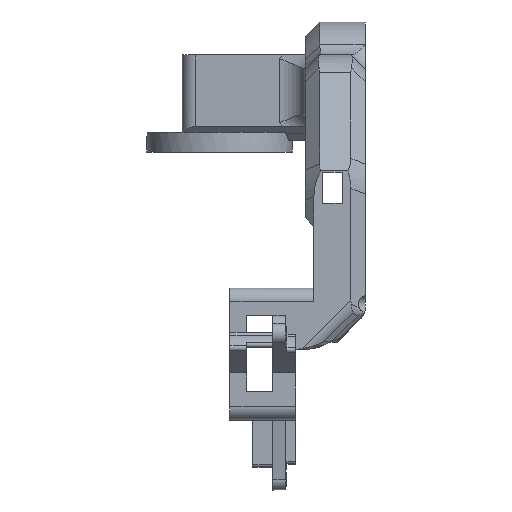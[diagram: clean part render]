
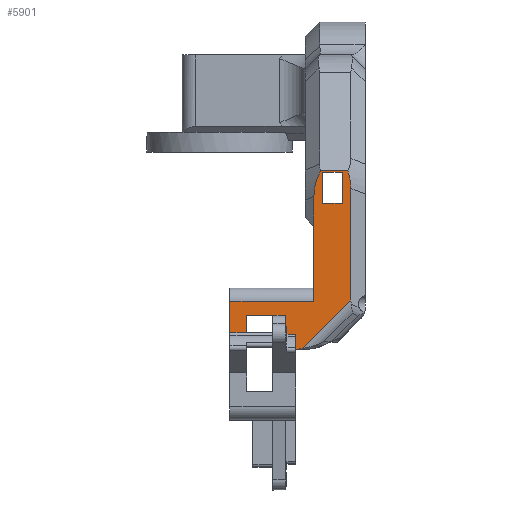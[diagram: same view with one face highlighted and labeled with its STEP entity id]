
A CAD part, left-side view. The second image highlights one B-rep face of the part: STEP entity #5901.
In plain terms, the highlighted planar face has unit normal (-1, 0, 0).
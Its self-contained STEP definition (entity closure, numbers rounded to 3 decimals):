
#40=ELLIPSE('',#6282,8.66,5.);
#44=ELLIPSE('',#6289,30.946,21.);
#45=ELLIPSE('',#6290,30.946,21.);
#179=FACE_BOUND('',#829,.T.);
#216=PLANE('',#6288);
#513=FACE_OUTER_BOUND('',#828,.T.);
#828=EDGE_LOOP('',(#4171,#4172,#4173,#4174,#4175,#4176,#4177,#4178,#4179,
#4180,#4181,#4182,#4183,#4184,#4185,#4186,#4187,#4188,#4189));
#829=EDGE_LOOP('',(#4190,#4191,#4192,#4193));
#1209=LINE('',#8920,#1761);
#1213=LINE('',#8933,#1765);
#1214=LINE('',#8937,#1766);
#1215=LINE('',#8941,#1767);
#1216=LINE('',#8943,#1768);
#1217=LINE('',#8945,#1769);
#1218=LINE('',#8947,#1770);
#1219=LINE('',#8949,#1771);
#1220=LINE('',#8951,#1772);
#1221=LINE('',#8953,#1773);
#1222=LINE('',#8955,#1774);
#1223=LINE('',#8957,#1775);
#1224=LINE('',#8959,#1776);
#1225=LINE('',#8961,#1777);
#1226=LINE('',#8962,#1778);
#1227=LINE('',#8963,#1779);
#1228=LINE('',#8966,#1780);
#1229=LINE('',#8968,#1781);
#1230=LINE('',#8970,#1782);
#1231=LINE('',#8971,#1783);
#1761=VECTOR('',#7022,10.);
#1765=VECTOR('',#7036,10.);
#1766=VECTOR('',#7039,10.);
#1767=VECTOR('',#7042,10.);
#1768=VECTOR('',#7043,10.);
#1769=VECTOR('',#7044,10.);
#1770=VECTOR('',#7045,10.);
#1771=VECTOR('',#7046,10.);
#1772=VECTOR('',#7047,10.);
#1773=VECTOR('',#7048,10.);
#1774=VECTOR('',#7049,10.);
#1775=VECTOR('',#7050,10.);
#1776=VECTOR('',#7051,10.);
#1777=VECTOR('',#7052,10.);
#1778=VECTOR('',#7053,10.);
#1779=VECTOR('',#7054,10.);
#1780=VECTOR('',#7055,10.);
#1781=VECTOR('',#7056,10.);
#1782=VECTOR('',#7057,10.);
#1783=VECTOR('',#7058,10.);
#2495=VERTEX_POINT('',#8633);
#2580=VERTEX_POINT('',#8897);
#2584=VERTEX_POINT('',#8915);
#2585=VERTEX_POINT('',#8919);
#2589=VERTEX_POINT('',#8932);
#2590=VERTEX_POINT('',#8934);
#2591=VERTEX_POINT('',#8936);
#2592=VERTEX_POINT('',#8938);
#2593=VERTEX_POINT('',#8940);
#2594=VERTEX_POINT('',#8942);
#2595=VERTEX_POINT('',#8944);
#2596=VERTEX_POINT('',#8946);
#2597=VERTEX_POINT('',#8948);
#2598=VERTEX_POINT('',#8950);
#2599=VERTEX_POINT('',#8952);
#2600=VERTEX_POINT('',#8954);
#2601=VERTEX_POINT('',#8956);
#2602=VERTEX_POINT('',#8958);
#2603=VERTEX_POINT('',#8960);
#2604=VERTEX_POINT('',#8964);
#2605=VERTEX_POINT('',#8965);
#2606=VERTEX_POINT('',#8967);
#2607=VERTEX_POINT('',#8969);
#3206=EDGE_CURVE('',#2584,#2580,#40,.T.);
#3207=EDGE_CURVE('',#2585,#2584,#1209,.T.);
#3214=EDGE_CURVE('',#2589,#2585,#1213,.T.);
#3215=EDGE_CURVE('',#2590,#2589,#44,.T.);
#3216=EDGE_CURVE('',#2590,#2591,#1214,.T.);
#3217=EDGE_CURVE('',#2592,#2591,#45,.T.);
#3218=EDGE_CURVE('',#2593,#2592,#1215,.T.);
#3219=EDGE_CURVE('',#2594,#2593,#1216,.T.);
#3220=EDGE_CURVE('',#2595,#2594,#1217,.T.);
#3221=EDGE_CURVE('',#2595,#2596,#1218,.T.);
#3222=EDGE_CURVE('',#2597,#2596,#1219,.F.);
#3223=EDGE_CURVE('',#2598,#2597,#1220,.T.);
#3224=EDGE_CURVE('',#2598,#2599,#1221,.T.);
#3225=EDGE_CURVE('',#2599,#2600,#1222,.T.);
#3226=EDGE_CURVE('',#2601,#2600,#1223,.T.);
#3227=EDGE_CURVE('',#2602,#2601,#1224,.T.);
#3228=EDGE_CURVE('',#2603,#2602,#1225,.T.);
#3229=EDGE_CURVE('',#2603,#2495,#1226,.T.);
#3230=EDGE_CURVE('',#2495,#2580,#1227,.T.);
#3231=EDGE_CURVE('',#2604,#2605,#1228,.T.);
#3232=EDGE_CURVE('',#2605,#2606,#1229,.T.);
#3233=EDGE_CURVE('',#2606,#2607,#1230,.T.);
#3234=EDGE_CURVE('',#2604,#2607,#1231,.T.);
#4171=ORIENTED_EDGE('',*,*,#3206,.F.);
#4172=ORIENTED_EDGE('',*,*,#3207,.F.);
#4173=ORIENTED_EDGE('',*,*,#3214,.F.);
#4174=ORIENTED_EDGE('',*,*,#3215,.F.);
#4175=ORIENTED_EDGE('',*,*,#3216,.T.);
#4176=ORIENTED_EDGE('',*,*,#3217,.F.);
#4177=ORIENTED_EDGE('',*,*,#3218,.F.);
#4178=ORIENTED_EDGE('',*,*,#3219,.F.);
#4179=ORIENTED_EDGE('',*,*,#3220,.F.);
#4180=ORIENTED_EDGE('',*,*,#3221,.T.);
#4181=ORIENTED_EDGE('',*,*,#3222,.F.);
#4182=ORIENTED_EDGE('',*,*,#3223,.F.);
#4183=ORIENTED_EDGE('',*,*,#3224,.T.);
#4184=ORIENTED_EDGE('',*,*,#3225,.T.);
#4185=ORIENTED_EDGE('',*,*,#3226,.F.);
#4186=ORIENTED_EDGE('',*,*,#3227,.F.);
#4187=ORIENTED_EDGE('',*,*,#3228,.F.);
#4188=ORIENTED_EDGE('',*,*,#3229,.T.);
#4189=ORIENTED_EDGE('',*,*,#3230,.T.);
#4190=ORIENTED_EDGE('',*,*,#3231,.T.);
#4191=ORIENTED_EDGE('',*,*,#3232,.T.);
#4192=ORIENTED_EDGE('',*,*,#3233,.T.);
#4193=ORIENTED_EDGE('',*,*,#3234,.F.);
#5901=ADVANCED_FACE('',(#513,#179),#216,.T.);
#6282=AXIS2_PLACEMENT_3D('',#8917,#7018,#7019);
#6288=AXIS2_PLACEMENT_3D('',#8931,#7034,#7035);
#6289=AXIS2_PLACEMENT_3D('',#8935,#7037,#7038);
#6290=AXIS2_PLACEMENT_3D('',#8939,#7040,#7041);
#7018=DIRECTION('center_axis',(1.,0.,0.));
#7019=DIRECTION('ref_axis',(0.,-1.,0.));
#7022=DIRECTION('',(0.,0.707,-0.707));
#7034=DIRECTION('center_axis',(-1.,0.,0.));
#7035=DIRECTION('ref_axis',(0.,0.,1.));
#7036=DIRECTION('',(0.,0.,-1.));
#7037=DIRECTION('center_axis',(1.,0.,0.));
#7038=DIRECTION('ref_axis',(0.,-0.924,-0.383));
#7039=DIRECTION('',(0.,1.,0.));
#7040=DIRECTION('center_axis',(1.,0.,0.));
#7041=DIRECTION('ref_axis',(0.,0.924,-0.383));
#7042=DIRECTION('',(0.,0.,1.));
#7043=DIRECTION('',(0.,0.,1.));
#7044=DIRECTION('',(0.,0.,1.));
#7045=DIRECTION('',(0.,1.,0.));
#7046=DIRECTION('',(0.,0.,-1.));
#7047=DIRECTION('',(0.,1.,0.));
#7048=DIRECTION('',(0.,0.,1.));
#7049=DIRECTION('',(0.,-1.,0.));
#7050=DIRECTION('',(0.,0.,1.));
#7051=DIRECTION('',(0.,1.,0.));
#7052=DIRECTION('',(0.,0.,1.));
#7053=DIRECTION('',(0.,-1.,0.));
#7054=DIRECTION('',(0.,-1.,0.));
#7055=DIRECTION('',(0.,0.,-1.));
#7056=DIRECTION('',(0.,1.,0.));
#7057=DIRECTION('',(0.,0.,1.));
#7058=DIRECTION('',(0.,1.,0.));
#8633=CARTESIAN_POINT('',(-103.626,-5.819,-19.953));
#8897=CARTESIAN_POINT('',(-103.626,-5.948,-19.953));
#8915=CARTESIAN_POINT('',(-103.626,-8.19,-19.783));
#8917=CARTESIAN_POINT('Origin',(-103.626,-5.948,-14.953));
#8919=CARTESIAN_POINT('',(-103.626,-25.219,-2.753));
#8920=CARTESIAN_POINT('',(-103.626,-26.9,-1.072));
#8931=CARTESIAN_POINT('Origin',(-103.626,-30.219,-3.271));
#8932=CARTESIAN_POINT('',(-103.626,-25.219,36.343));
#8933=CARTESIAN_POINT('',(-103.626,-25.219,-6.264));
#8934=CARTESIAN_POINT('',(-103.626,-24.111,42.494));
#8935=CARTESIAN_POINT('Origin',(-103.626,4.479,42.494));
#8936=CARTESIAN_POINT('',(-103.626,-14.55,42.494));
#8937=CARTESIAN_POINT('',(-103.626,-30.219,42.494));
#8938=CARTESIAN_POINT('',(-103.626,-12.219,33.515));
#8939=CARTESIAN_POINT('Origin',(-103.626,-41.918,39.666));
#8940=CARTESIAN_POINT('',(-103.626,-12.219,23.047));
#8941=CARTESIAN_POINT('',(-103.626,-12.219,39.888));
#8942=CARTESIAN_POINT('',(-103.626,-12.219,-3.266));
#8943=CARTESIAN_POINT('',(-103.626,-12.219,40.047));
#8944=CARTESIAN_POINT('',(-103.626,-12.219,-3.271));
#8945=CARTESIAN_POINT('',(-103.626,-12.219,40.047));
#8946=CARTESIAN_POINT('',(-103.626,17.181,-3.271));
#8947=CARTESIAN_POINT('',(-103.626,-5.819,-3.271));
#8948=CARTESIAN_POINT('',(-103.626,17.181,-14.757));
#8949=CARTESIAN_POINT('',(-103.626,17.181,-12.48));
#8950=CARTESIAN_POINT('',(-103.626,11.306,-14.757));
#8951=CARTESIAN_POINT('',(-103.626,17.181,-14.757));
#8952=CARTESIAN_POINT('',(-103.626,11.306,-8.089));
#8953=CARTESIAN_POINT('',(-103.626,11.306,-11.315));
#8954=CARTESIAN_POINT('',(-103.626,2.181,-8.089));
#8955=CARTESIAN_POINT('',(-103.626,-11.738,-8.089));
#8956=CARTESIAN_POINT('',(-103.626,2.181,-8.09));
#8957=CARTESIAN_POINT('',(-103.626,2.181,-11.315));
#8958=CARTESIAN_POINT('',(-103.626,-2.319,-8.09));
#8959=CARTESIAN_POINT('',(-103.626,-14.019,-8.09));
#8960=CARTESIAN_POINT('',(-103.626,-2.319,-19.953));
#8961=CARTESIAN_POINT('',(-103.626,-2.319,-9.294));
#8962=CARTESIAN_POINT('',(-103.626,-18.019,-19.953));
#8963=CARTESIAN_POINT('',(-103.626,-18.019,-19.953));
#8964=CARTESIAN_POINT('',(-103.626,-22.219,42.047));
#8965=CARTESIAN_POINT('',(-103.626,-22.219,31.047));
#8966=CARTESIAN_POINT('',(-103.626,-22.219,13.888));
#8967=CARTESIAN_POINT('',(-103.626,-15.219,31.047));
#8968=CARTESIAN_POINT('',(-103.626,-22.719,31.047));
#8969=CARTESIAN_POINT('',(-103.626,-15.219,42.047));
#8970=CARTESIAN_POINT('',(-103.626,-15.219,21.888));
#8971=CARTESIAN_POINT('',(-103.626,-22.219,42.047));
